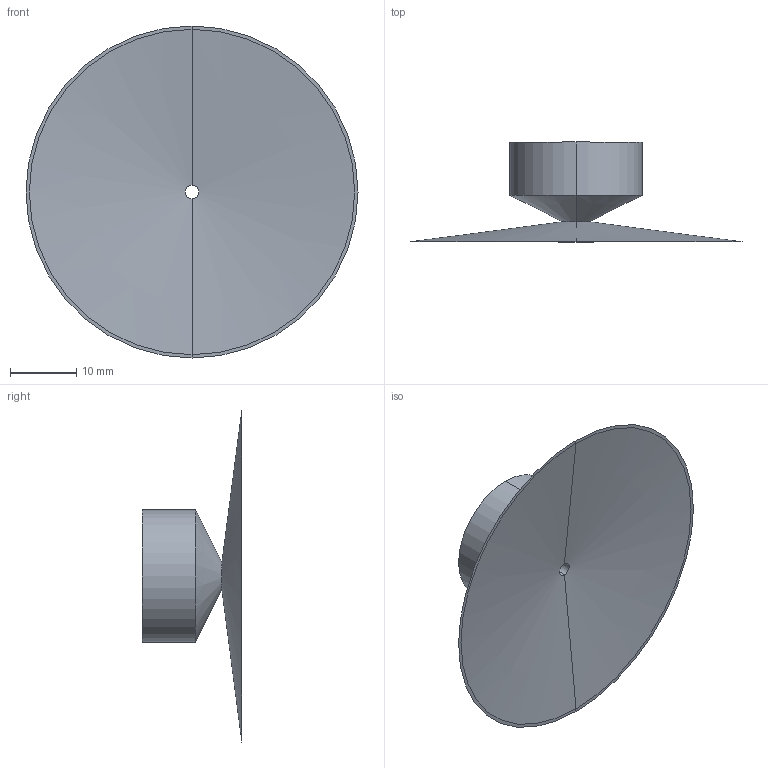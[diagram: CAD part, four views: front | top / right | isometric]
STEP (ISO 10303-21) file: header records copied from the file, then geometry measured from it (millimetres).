
FILE_DESCRIPTION (( 'STEP AP214' ), '1' );
FILE_NAME ('VSH-M50.STEP', '2019-11-30T09:21:17', ( '微软用户' ), ( '微软中国' ), 'SwSTEP 2.0', 'SolidWorks 2016', '' );
FILE_SCHEMA (( 'AUTOMOTIVE_DESIGN' ));
Length unit declared in the file: millimetre
Products named in the file (1): VSH-M50
Bounding box: 50 x 15 x 50 mm (x, y, z)
Volume: 3028.3 mm3; surface area: 5439.4 mm2
Topology: 1 solids, 1 shells, 18 faces, 36 edges, 22 vertices
Faces by surface type: cylinder 8, cone 6, plane 4
Entity records: 512 total; most frequent: DIRECTION 96, CARTESIAN_POINT 77, ORIENTED_EDGE 72, AXIS2_PLACEMENT_3D 41, EDGE_CURVE 36, CIRCLE 22, EDGE_LOOP 22, VERTEX_POINT 22
